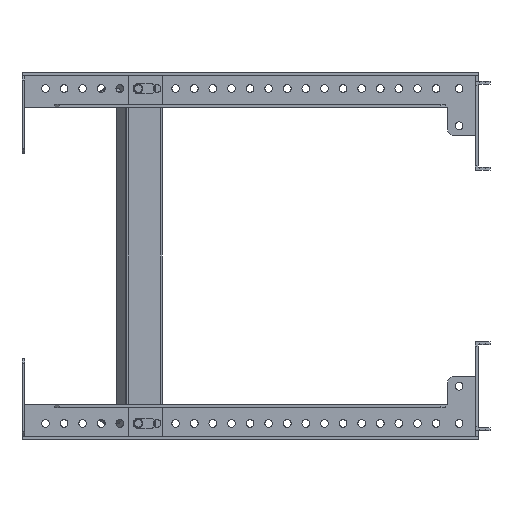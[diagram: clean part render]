
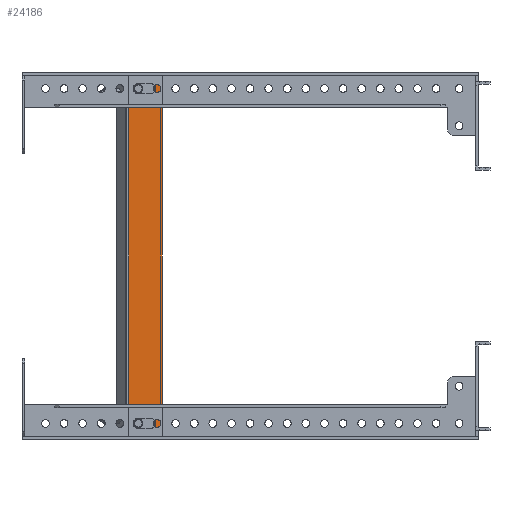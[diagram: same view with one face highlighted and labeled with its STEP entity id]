
A CAD part, front view. The second image highlights one B-rep face of the part: STEP entity #24186.
In plain terms, the highlighted planar face has unit normal (0, -1, 0).
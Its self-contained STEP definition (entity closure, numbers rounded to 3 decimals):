
#86 = VECTOR ( 'NONE', #23768, 1000. ) ;
#173 = VECTOR ( 'NONE', #3891, 1000. ) ;
#428 = DIRECTION ( 'NONE',  ( -1., 0., 0. ) ) ;
#655 = VERTEX_POINT ( 'NONE', #10086 ) ;
#704 = EDGE_CURVE ( 'NONE', #5155, #4548, #6325, .T. ) ;
#820 = CIRCLE ( 'NONE', #19249, 3.5 ) ;
#1675 = DIRECTION ( 'NONE',  ( -1., 0., 0. ) ) ;
#1857 = CARTESIAN_POINT ( 'NONE',  ( 1105.77, -253.815, -122.5 ) ) ;
#1965 = EDGE_CURVE ( 'NONE', #8884, #17760, #2824, .T. ) ;
#2332 = AXIS2_PLACEMENT_3D ( 'NONE', #9857, #18029, #7849 ) ;
#2362 = EDGE_CURVE ( 'NONE', #655, #22079, #5767, .T. ) ;
#2591 = DIRECTION ( 'NONE',  ( -1., 0., 0. ) ) ;
#2793 = EDGE_CURVE ( 'NONE', #5155, #8884, #9506, .T. ) ;
#2824 = LINE ( 'NONE', #17306, #8308 ) ;
#3098 = CARTESIAN_POINT ( 'NONE',  ( 1120.27, -253.815, 116. ) ) ;
#3259 = EDGE_CURVE ( 'NONE', #18367, #655, #7102, .T. ) ;
#3449 = FACE_BOUND ( 'NONE', #24262, .T. ) ;
#3579 = DIRECTION ( 'NONE',  ( 1., 0., 0. ) ) ;
#3856 = CARTESIAN_POINT ( 'NONE',  ( 1150.113, -253.815, -122.5 ) ) ;
#3891 = DIRECTION ( 'NONE',  ( 1., 0., 0. ) ) ;
#3939 = DIRECTION ( 'NONE',  ( -1., 0., 0. ) ) ;
#4137 = VECTOR ( 'NONE', #23171, 1000. ) ;
#4230 = ORIENTED_EDGE ( 'NONE', *, *, #8460, .F. ) ;
#4548 = VERTEX_POINT ( 'NONE', #14034 ) ;
#4616 = CARTESIAN_POINT ( 'NONE',  ( 1112.27, -253.815, 109. ) ) ;
#4669 = DIRECTION ( 'NONE',  ( -1., 0., 0. ) ) ;
#4863 = ORIENTED_EDGE ( 'NONE', *, *, #3259, .T. ) ;
#5067 = CARTESIAN_POINT ( 'NONE',  ( 1112.27, -253.815, 109. ) ) ;
#5155 = VERTEX_POINT ( 'NONE', #21453 ) ;
#5469 = ORIENTED_EDGE ( 'NONE', *, *, #24025, .F. ) ;
#5767 = LINE ( 'NONE', #24261, #173 ) ;
#5820 = CARTESIAN_POINT ( 'NONE',  ( 1120.27, -253.815, -109. ) ) ;
#6288 = CARTESIAN_POINT ( 'NONE',  ( 1112.27, -253.815, -109. ) ) ;
#6291 = DIRECTION ( 'NONE',  ( 0., 1., 0. ) ) ;
#6325 = LINE ( 'NONE', #14234, #11257 ) ;
#6609 = EDGE_CURVE ( 'NONE', #22079, #19911, #14470, .T. ) ;
#7042 = LINE ( 'NONE', #9329, #86 ) ;
#7102 = CIRCLE ( 'NONE', #10504, 3.5 ) ;
#7260 = EDGE_CURVE ( 'NONE', #13011, #25605, #23890, .T. ) ;
#7849 = DIRECTION ( 'NONE',  ( -1., 0., 0. ) ) ;
#7921 = VECTOR ( 'NONE', #2591, 1000. ) ;
#8308 = VECTOR ( 'NONE', #15295, 1000. ) ;
#8460 = EDGE_CURVE ( 'NONE', #23735, #20138, #820, .T. ) ;
#8551 = CARTESIAN_POINT ( 'NONE',  ( 1105.77, -253.815, 122.5 ) ) ;
#8884 = VERTEX_POINT ( 'NONE', #1857 ) ;
#9191 = CARTESIAN_POINT ( 'NONE',  ( 1112.27, -253.815, -116. ) ) ;
#9329 = CARTESIAN_POINT ( 'NONE',  ( 1112.27, -253.815, -116. ) ) ;
#9343 = ORIENTED_EDGE ( 'NONE', *, *, #19294, .F. ) ;
#9506 = LINE ( 'NONE', #3856, #18179 ) ;
#9668 = VECTOR ( 'NONE', #18843, 1000. ) ;
#9857 = CARTESIAN_POINT ( 'NONE',  ( 1112.27, -253.815, 112.5 ) ) ;
#10086 = CARTESIAN_POINT ( 'NONE',  ( 1112.27, -253.815, 116. ) ) ;
#10175 = ORIENTED_EDGE ( 'NONE', *, *, #704, .T. ) ;
#10504 = AXIS2_PLACEMENT_3D ( 'NONE', #15896, #24056, #1675 ) ;
#10824 = EDGE_CURVE ( 'NONE', #16693, #18367, #13476, .T. ) ;
#10930 = EDGE_CURVE ( 'NONE', #19911, #16693, #22960, .T. ) ;
#11062 = AXIS2_PLACEMENT_3D ( 'NONE', #16730, #6291, #4669 ) ;
#11257 = VECTOR ( 'NONE', #24411, 1000. ) ;
#11632 = FACE_BOUND ( 'NONE', #25117, .T. ) ;
#11843 = ORIENTED_EDGE ( 'NONE', *, *, #2362, .T. ) ;
#11886 = AXIS2_PLACEMENT_3D ( 'NONE', #13767, #21939, #3579 ) ;
#12158 = VERTEX_POINT ( 'NONE', #6288 ) ;
#12343 = AXIS2_PLACEMENT_3D ( 'NONE', #12391, #12519, #428 ) ;
#12391 = CARTESIAN_POINT ( 'NONE',  ( 1112.27, -253.815, -112.5 ) ) ;
#12519 = DIRECTION ( 'NONE',  ( 0., -1., 0. ) ) ;
#12697 = LINE ( 'NONE', #25000, #9668 ) ;
#12751 = CARTESIAN_POINT ( 'NONE',  ( 1120.27, -253.815, -112.5 ) ) ;
#13011 = VERTEX_POINT ( 'NONE', #24699 ) ;
#13476 = CIRCLE ( 'NONE', #2332, 3.5 ) ;
#13585 = CIRCLE ( 'NONE', #26432, 3.5 ) ;
#13767 = CARTESIAN_POINT ( 'NONE',  ( 1150.737, -253.815, 0. ) ) ;
#13929 = CARTESIAN_POINT ( 'NONE',  ( 1120.27, -253.815, -116. ) ) ;
#14034 = CARTESIAN_POINT ( 'NONE',  ( 1128.272, -253.815, 122.5 ) ) ;
#14234 = CARTESIAN_POINT ( 'NONE',  ( 1128.272, -253.815, -125.859 ) ) ;
#14470 = CIRCLE ( 'NONE', #11062, 3.5 ) ;
#14712 = DIRECTION ( 'NONE',  ( 0., -1., 0. ) ) ;
#14900 = DIRECTION ( 'NONE',  ( 0., -1., 0. ) ) ;
#15295 = DIRECTION ( 'NONE',  ( 0., 0., 1. ) ) ;
#15713 = ORIENTED_EDGE ( 'NONE', *, *, #10824, .T. ) ;
#15896 = CARTESIAN_POINT ( 'NONE',  ( 1112.27, -253.815, 112.5 ) ) ;
#16693 = VERTEX_POINT ( 'NONE', #5067 ) ;
#16730 = CARTESIAN_POINT ( 'NONE',  ( 1120.27, -253.815, 112.5 ) ) ;
#17129 = CARTESIAN_POINT ( 'NONE',  ( 1112.27, -253.815, -112.5 ) ) ;
#17306 = CARTESIAN_POINT ( 'NONE',  ( 1105.77, -253.815, -122.5 ) ) ;
#17760 = VERTEX_POINT ( 'NONE', #8551 ) ;
#18029 = DIRECTION ( 'NONE',  ( 0., 1., 0. ) ) ;
#18179 = VECTOR ( 'NONE', #23956, 1000. ) ;
#18367 = VERTEX_POINT ( 'NONE', #24306 ) ;
#18758 = LINE ( 'NONE', #23452, #4137 ) ;
#18827 = CARTESIAN_POINT ( 'NONE',  ( 1120.27, -253.815, 109. ) ) ;
#18843 = DIRECTION ( 'NONE',  ( 1., 0., 0. ) ) ;
#19137 = DIRECTION ( 'NONE',  ( -1., 0., 0. ) ) ;
#19249 = AXIS2_PLACEMENT_3D ( 'NONE', #12751, #14900, #3939 ) ;
#19294 = EDGE_CURVE ( 'NONE', #25605, #23735, #7042, .T. ) ;
#19676 = ORIENTED_EDGE ( 'NONE', *, *, #22683, .F. ) ;
#19911 = VERTEX_POINT ( 'NONE', #18827 ) ;
#20138 = VERTEX_POINT ( 'NONE', #5820 ) ;
#21453 = CARTESIAN_POINT ( 'NONE',  ( 1128.272, -253.815, -122.5 ) ) ;
#21503 = EDGE_LOOP ( 'NONE', ( #19676, #23474, #23028, #10175 ) ) ;
#21807 = FACE_OUTER_BOUND ( 'NONE', #21503, .T. ) ;
#21939 = DIRECTION ( 'NONE',  ( 0., 1., 0. ) ) ;
#22079 = VERTEX_POINT ( 'NONE', #3098 ) ;
#22683 = EDGE_CURVE ( 'NONE', #17760, #4548, #12697, .T. ) ;
#22805 = ORIENTED_EDGE ( 'NONE', *, *, #10930, .T. ) ;
#22960 = LINE ( 'NONE', #4616, #7921 ) ;
#23028 = ORIENTED_EDGE ( 'NONE', *, *, #2793, .F. ) ;
#23171 = DIRECTION ( 'NONE',  ( -1., 0., 0. ) ) ;
#23452 = CARTESIAN_POINT ( 'NONE',  ( 1112.27, -253.815, -109. ) ) ;
#23474 = ORIENTED_EDGE ( 'NONE', *, *, #1965, .F. ) ;
#23581 = EDGE_CURVE ( 'NONE', #20138, #12158, #18758, .T. ) ;
#23735 = VERTEX_POINT ( 'NONE', #13929 ) ;
#23768 = DIRECTION ( 'NONE',  ( 1., 0., 0. ) ) ;
#23890 = CIRCLE ( 'NONE', #12343, 3.5 ) ;
#23928 = ORIENTED_EDGE ( 'NONE', *, *, #7260, .F. ) ;
#23932 = PLANE ( 'NONE',  #11886 ) ;
#23956 = DIRECTION ( 'NONE',  ( -1., 0., 0. ) ) ;
#24025 = EDGE_CURVE ( 'NONE', #12158, #13011, #13585, .T. ) ;
#24056 = DIRECTION ( 'NONE',  ( 0., 1., 0. ) ) ;
#24186 = ADVANCED_FACE ( 'NONE', ( #21807, #3449, #11632 ), #23932, .F. ) ;
#24261 = CARTESIAN_POINT ( 'NONE',  ( 1112.27, -253.815, 116. ) ) ;
#24262 = EDGE_LOOP ( 'NONE', ( #9343, #23928, #5469, #24324, #4230 ) ) ;
#24306 = CARTESIAN_POINT ( 'NONE',  ( 1108.77, -253.815, 112.5 ) ) ;
#24324 = ORIENTED_EDGE ( 'NONE', *, *, #23581, .F. ) ;
#24411 = DIRECTION ( 'NONE',  ( 0., 0., 1. ) ) ;
#24699 = CARTESIAN_POINT ( 'NONE',  ( 1108.77, -253.815, -112.5 ) ) ;
#25000 = CARTESIAN_POINT ( 'NONE',  ( 1105.77, -253.815, 122.5 ) ) ;
#25117 = EDGE_LOOP ( 'NONE', ( #15713, #4863, #11843, #25975, #22805 ) ) ;
#25605 = VERTEX_POINT ( 'NONE', #9191 ) ;
#25975 = ORIENTED_EDGE ( 'NONE', *, *, #6609, .T. ) ;
#26432 = AXIS2_PLACEMENT_3D ( 'NONE', #17129, #14712, #19137 ) ;
